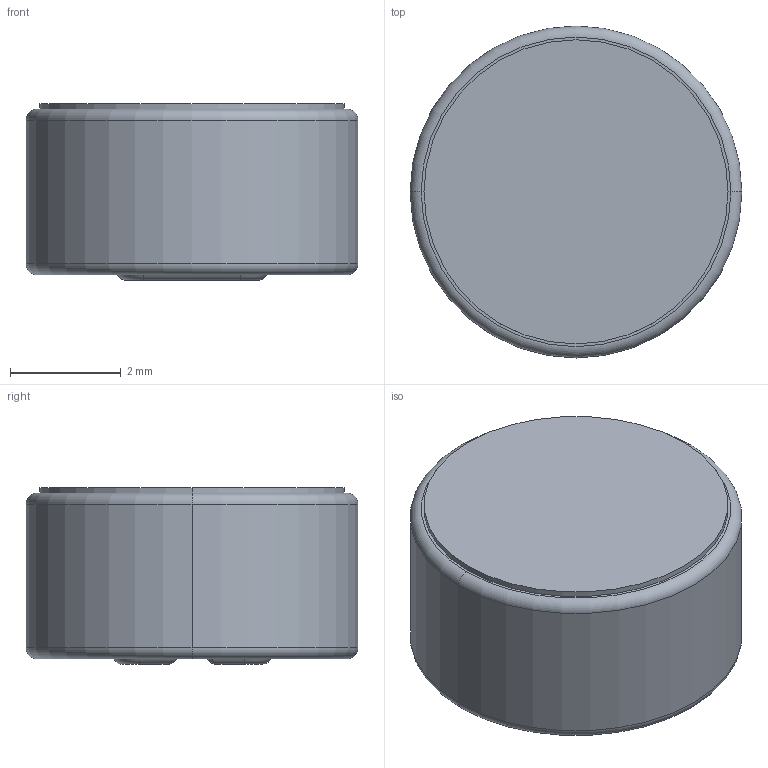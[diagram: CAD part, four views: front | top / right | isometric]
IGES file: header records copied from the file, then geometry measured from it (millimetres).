
Global section: file name: No Iges File Name specified; native system: Autodesk Inventor 2011; preprocessor: AutoDesk Inventor Iges Exporter R2011; author: Dunn; date: 20120111.082417; units: millimetre
Bounding box: 6 x 6 x 3.2 mm (x, y, z)
Volume: 20.3 mm3; surface area: 211.8 mm2
Topology: 1 solids, 2 shells, 66 faces, 144 edges, 90 vertices
Faces by surface type: plane 20, revolution 18, cylinder 14, torus 10, bspline 4
